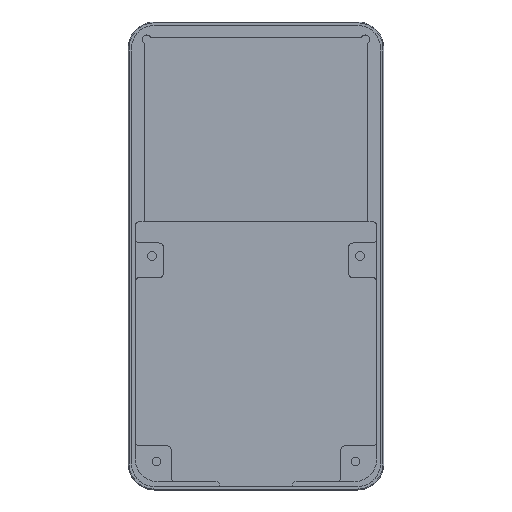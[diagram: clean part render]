
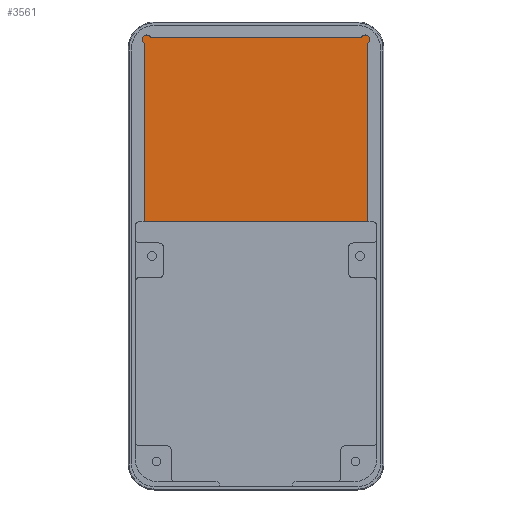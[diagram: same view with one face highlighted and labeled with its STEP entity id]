
A CAD part, top view. The second image highlights one B-rep face of the part: STEP entity #3561.
In plain terms, the highlighted planar face has unit normal (0, 0, 1).
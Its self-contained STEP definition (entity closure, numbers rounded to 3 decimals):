
#1308=CARTESIAN_POINT('Vertex',(55.25,61.9,4.8)) ;
#1311=CARTESIAN_POINT('Line Origine',(29.5,61.9,4.8)) ;
#1315=CARTESIAN_POINT('Vertex',(3.75,61.9,4.8)) ;
#3292=CARTESIAN_POINT('Line Origine',(3.75,82.391,4.8)) ;
#3296=CARTESIAN_POINT('Vertex',(3.75,102.882,4.8)) ;
#3322=CARTESIAN_POINT('Vertex',(3.583,103.255,4.8)) ;
#3325=CARTESIAN_POINT('Axis2P3D Location',(4.25,104.,4.8)) ;
#3329=CARTESIAN_POINT('Vertex',(3.25,104.,4.8)) ;
#3356=CARTESIAN_POINT('Axis2P3D Location',(3.25,102.882,4.8)) ;
#3379=CARTESIAN_POINT('Vertex',(4.995,104.667,4.8)) ;
#3387=CARTESIAN_POINT('Axis2P3D Location',(4.25,104.,4.8)) ;
#3404=CARTESIAN_POINT('Axis2P3D Location',(5.368,105.,4.8)) ;
#3408=CARTESIAN_POINT('Vertex',(5.368,104.5,4.8)) ;
#3441=CARTESIAN_POINT('Vertex',(54.005,104.667,4.8)) ;
#3444=CARTESIAN_POINT('Axis2P3D Location',(54.75,104.,4.8)) ;
#3448=CARTESIAN_POINT('Vertex',(55.75,104.,4.8)) ;
#3481=CARTESIAN_POINT('Vertex',(53.632,104.5,4.8)) ;
#3489=CARTESIAN_POINT('Line Origine',(29.5,104.5,4.8)) ;
#3506=CARTESIAN_POINT('Axis2P3D Location',(53.632,105.,4.8)) ;
#3523=CARTESIAN_POINT('Axis2P3D Location',(0.,0.,4.8)) ;
#3528=CARTESIAN_POINT('Axis2P3D Location',(55.75,102.882,4.8)) ;
#3532=CARTESIAN_POINT('Vertex',(55.417,103.255,4.8)) ;
#3534=CARTESIAN_POINT('Vertex',(55.25,102.882,4.8)) ;
#3537=CARTESIAN_POINT('Axis2P3D Location',(54.75,104.,4.8)) ;
#3542=CARTESIAN_POINT('Line Origine',(55.25,82.391,4.8)) ;
#1312=DIRECTION('Vector Direction',(1.,0.,0.)) ;
#3293=DIRECTION('Vector Direction',(0.,-1.,0.)) ;
#3326=DIRECTION('Axis2P3D Direction',(0.,0.,1.)) ;
#3357=DIRECTION('Axis2P3D Direction',(0.,0.,-1.)) ;
#3388=DIRECTION('Axis2P3D Direction',(0.,0.,1.)) ;
#3405=DIRECTION('Axis2P3D Direction',(0.,0.,1.)) ;
#3445=DIRECTION('Axis2P3D Direction',(0.,0.,1.)) ;
#3490=DIRECTION('Vector Direction',(1.,0.,0.)) ;
#3507=DIRECTION('Axis2P3D Direction',(0.,0.,1.)) ;
#3524=DIRECTION('Axis2P3D Direction',(0.,0.,1.)) ;
#3525=DIRECTION('Axis2P3D XDirection',(1.,0.,0.)) ;
#3529=DIRECTION('Axis2P3D Direction',(0.,0.,1.)) ;
#3538=DIRECTION('Axis2P3D Direction',(0.,0.,1.)) ;
#3543=DIRECTION('Vector Direction',(0.,1.,0.)) ;
#3327=AXIS2_PLACEMENT_3D('Circle Axis2P3D',#3325,#3326,$) ;
#3358=AXIS2_PLACEMENT_3D('Circle Axis2P3D',#3356,#3357,$) ;
#3389=AXIS2_PLACEMENT_3D('Circle Axis2P3D',#3387,#3388,$) ;
#3406=AXIS2_PLACEMENT_3D('Circle Axis2P3D',#3404,#3405,$) ;
#3446=AXIS2_PLACEMENT_3D('Circle Axis2P3D',#3444,#3445,$) ;
#3508=AXIS2_PLACEMENT_3D('Circle Axis2P3D',#3506,#3507,$) ;
#3526=AXIS2_PLACEMENT_3D('Plane Axis2P3D',#3523,#3524,#3525) ;
#3530=AXIS2_PLACEMENT_3D('Circle Axis2P3D',#3528,#3529,$) ;
#3539=AXIS2_PLACEMENT_3D('Circle Axis2P3D',#3537,#3538,$) ;
#3548=ORIENTED_EDGE('',*,*,#3536,.F.) ;
#3549=ORIENTED_EDGE('',*,*,#3541,.T.) ;
#3550=ORIENTED_EDGE('',*,*,#3450,.T.) ;
#3551=ORIENTED_EDGE('',*,*,#3510,.F.) ;
#3552=ORIENTED_EDGE('',*,*,#3493,.T.) ;
#3553=ORIENTED_EDGE('',*,*,#3410,.F.) ;
#3554=ORIENTED_EDGE('',*,*,#3391,.T.) ;
#3555=ORIENTED_EDGE('',*,*,#3331,.T.) ;
#3556=ORIENTED_EDGE('',*,*,#3360,.F.) ;
#3557=ORIENTED_EDGE('',*,*,#3298,.T.) ;
#3558=ORIENTED_EDGE('',*,*,#1317,.T.) ;
#3559=ORIENTED_EDGE('',*,*,#3546,.T.) ;
#1313=VECTOR('Line Direction',#1312,1.) ;
#3294=VECTOR('Line Direction',#3293,1.) ;
#3491=VECTOR('Line Direction',#3490,1.) ;
#3544=VECTOR('Line Direction',#3543,1.) ;
#3561=ADVANCED_FACE('\X2\96F64EF651E04F554F53\X0\',(#3560),#3527,.T.) ;
#3328=CIRCLE('generated circle',#3327,1.) ;
#3359=CIRCLE('generated circle',#3358,0.5) ;
#3390=CIRCLE('generated circle',#3389,1.) ;
#3407=CIRCLE('generated circle',#3406,0.5) ;
#3447=CIRCLE('generated circle',#3446,1.) ;
#3509=CIRCLE('generated circle',#3508,0.5) ;
#3531=CIRCLE('generated circle',#3530,0.5) ;
#3540=CIRCLE('generated circle',#3539,1.) ;
#1317=EDGE_CURVE('',#1316,#1309,#1314,.T.) ;
#3298=EDGE_CURVE('',#3297,#1316,#3295,.T.) ;
#3331=EDGE_CURVE('',#3330,#3323,#3328,.T.) ;
#3360=EDGE_CURVE('',#3297,#3323,#3359,.F.) ;
#3391=EDGE_CURVE('',#3380,#3330,#3390,.T.) ;
#3410=EDGE_CURVE('',#3380,#3409,#3407,.T.) ;
#3450=EDGE_CURVE('',#3449,#3442,#3447,.T.) ;
#3493=EDGE_CURVE('',#3482,#3409,#3492,.F.) ;
#3510=EDGE_CURVE('',#3482,#3442,#3509,.T.) ;
#3536=EDGE_CURVE('',#3533,#3535,#3531,.T.) ;
#3541=EDGE_CURVE('',#3533,#3449,#3540,.T.) ;
#3546=EDGE_CURVE('',#1309,#3535,#3545,.T.) ;
#3547=EDGE_LOOP('',(#3548,#3549,#3550,#3551,#3552,#3553,#3554,#3555,#3556,#3557,#3558,#3559)) ;
#3560=FACE_OUTER_BOUND('',#3547,.T.) ;
#1314=LINE('Line',#1311,#1313) ;
#3295=LINE('Line',#3292,#3294) ;
#3492=LINE('Line',#3489,#3491) ;
#3545=LINE('Line',#3542,#3544) ;
#3527=PLANE('',#3526) ;
#1309=VERTEX_POINT('',#1308) ;
#1316=VERTEX_POINT('',#1315) ;
#3297=VERTEX_POINT('',#3296) ;
#3323=VERTEX_POINT('',#3322) ;
#3330=VERTEX_POINT('',#3329) ;
#3380=VERTEX_POINT('',#3379) ;
#3409=VERTEX_POINT('',#3408) ;
#3442=VERTEX_POINT('',#3441) ;
#3449=VERTEX_POINT('',#3448) ;
#3482=VERTEX_POINT('',#3481) ;
#3533=VERTEX_POINT('',#3532) ;
#3535=VERTEX_POINT('',#3534) ;
